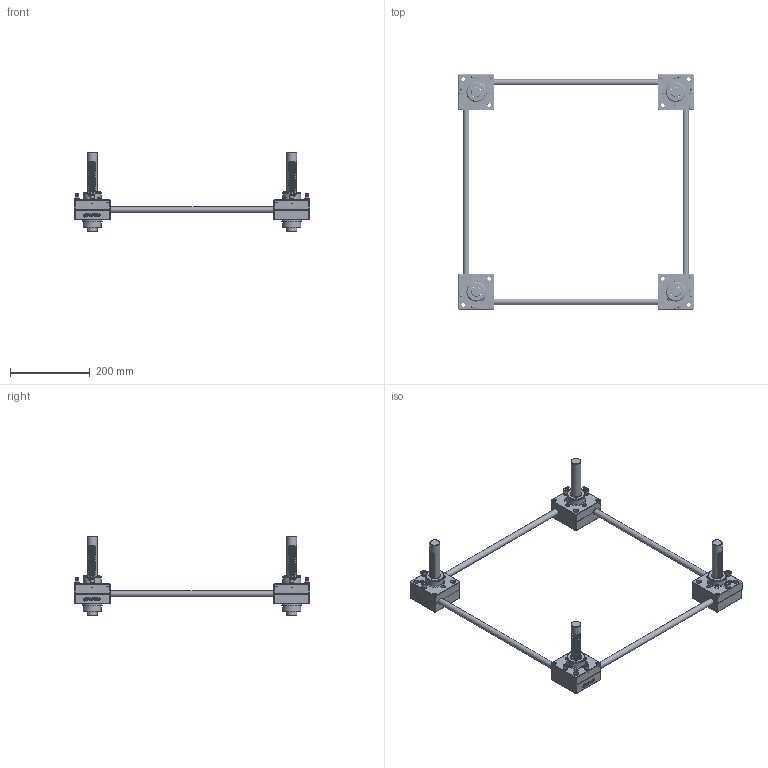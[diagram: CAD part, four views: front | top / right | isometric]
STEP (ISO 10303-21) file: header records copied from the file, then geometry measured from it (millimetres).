
FILE_DESCRIPTION(('STEP AP203'),'1');
FILE_NAME('SP500U-500x500-100ST.stp','2022-06-15T01:33:00',(' '),(' '),'Spatial InterOp 3D',' ',' ');
FILE_SCHEMA(('CONFIG_CONTROL_DESIGN'));
Length unit declared in the file: millimetre
Products named in the file (71): SP500U-500x500-100ST; ASSEM1; Body.1-Part; Bolt; Nipple; Gear Box.1(Upper); Gear Box.1(Lower); LowerGearBox.1; RJ05-4SCJ-610X600-100ST_CAP; LABEL-B.1; ___; 파트18; __ SP500; Body.2-Part; Gear Box.2(Upper); Gear Box.2(Lower); Symmetry of LowerGearBox.1.1; Body.3-Part; Gear Box.3(Upper); Gear Box.3(Lower); Symmetry of Symmetry of LowerGearBox.1.2.1; Body.4-Part; Gear Box.4(Upper); Gear Box.4(Lower); Symmetry of LowerGearBox.1.2; Shaft.1; Shaft.2
Assembly tree (72 placements, depth 6):
  SP500U-500x500-100ST
    ASSEM1
    (unnamed)
    (unnamed)
    (unnamed)
    Body.1-Part
      Bolt
      Bolt
      Bolt
      Bolt
      Bolt
      Nipple
      Nipple
      Gear Box.1(Upper)
      Gear Box.1(Lower)
        LowerGearBox.1
      __ SP500
        ___
          RJ05-4SCJ-610X600-100ST_CAP
            LABEL-B.1
          파트18
    Body.2-Part
      Nipple
      Nipple
      Bolt
      Bolt
      Bolt
      Bolt
      Bolt
      Gear Box.2(Upper)
      Gear Box.2(Lower)
        Symmetry of LowerGearBox.1.1
      __ SP500
        ___
          RJ05-4SCJ-610X600-100ST_CAP
            LABEL-B.1
          파트18
    Body.3-Part
      Bolt
      Bolt
      Bolt
      Bolt
      Bolt
      Nipple
      Nipple
      Gear Box.3(Upper)
      Gear Box.3(Lower)
        Symmetry of Symmetry of LowerGearBox.1.2.1
      __ SP500
        ___
          RJ05-4SCJ-610X600-100ST_CAP
            LABEL-B.1
          파트18
    Body.4-Part
      Nipple
      Nipple
      Bolt
      Bolt
      Bolt
      Bolt
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Bounding box: 590.44 x 590.44 x 200 mm (x, y, z)
Volume: 1759650.3 mm3; surface area: 568945.2 mm2
Topology: 68 solids, 68 shells, 8504 faces, 24078 edges, 15938 vertices
Faces by surface type: plane 7512, cylinder 520, revolution 168, extrusion 152, cone 128, bspline 20, sphere 4
Full cylindrical faces by diameter (mm): 4.8 x8, 6 x48, 7 x20, 9 x16, 9.886 x8, 10 x4, 10.5 x40, 13.5 x8, 15 x4, 25 x4, 26 x8, 28 x8, 28.3 x8, 29.5 x8, 42.5 x4, 45 x12, 50 x4
Entity records: 275002 total; most frequent: CARTESIAN_POINT 54679, ORIENTED_EDGE 46360, DIRECTION 41146, EDGE_CURVE 23180, VECTOR 20876, LINE 20724, VERTEX_POINT 15576, AXIS2_PLACEMENT_3D 10051
